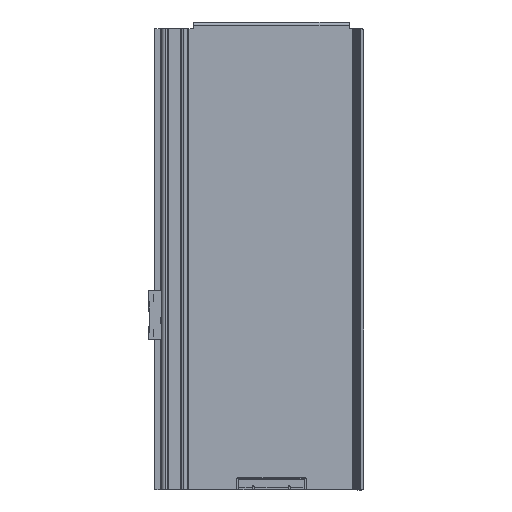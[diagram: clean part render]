
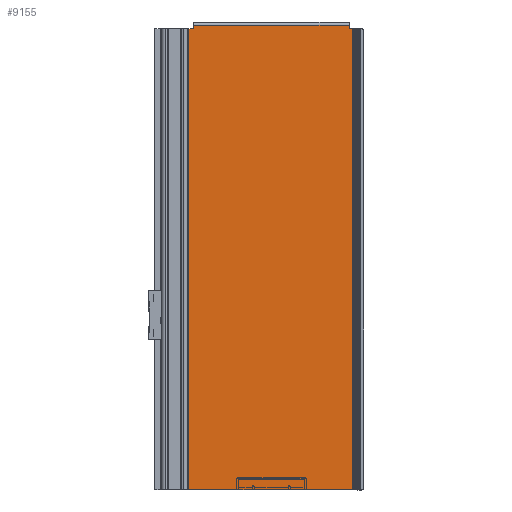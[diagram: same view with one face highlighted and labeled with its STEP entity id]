
A CAD part, left-side view. The second image highlights one B-rep face of the part: STEP entity #9155.
In plain terms, the highlighted planar face has unit normal (-1, 0, 0) as drawn and (1, 0, 0) by its records, which use the part's own axes.
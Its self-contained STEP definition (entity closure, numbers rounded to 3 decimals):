
#271=PLANE('',#9974);
#758=LINE('',#14781,#1502);
#763=LINE('',#14796,#1507);
#768=LINE('',#14805,#1512);
#769=LINE('',#14808,#1513);
#806=LINE('',#14933,#1550);
#824=LINE('',#14981,#1568);
#825=LINE('',#14984,#1569);
#826=LINE('',#14985,#1570);
#1502=VECTOR('',#11856,10.);
#1507=VECTOR('',#11871,10.);
#1512=VECTOR('',#11878,10.);
#1513=VECTOR('',#11881,10.);
#1550=VECTOR('',#11988,10.);
#1568=VECTOR('',#12042,10.);
#1569=VECTOR('',#12045,10.);
#1570=VECTOR('',#12046,10.);
#2243=FACE_OUTER_BOUND('',#2805,.T.);
#2805=EDGE_LOOP('',(#7184,#7185,#7186,#7187,#7188,#7189,#7190,#7191));
#3986=VERTEX_POINT('',#14777);
#3987=VERTEX_POINT('',#14779);
#3992=VERTEX_POINT('',#14795);
#3995=VERTEX_POINT('',#14803);
#3996=VERTEX_POINT('',#14807);
#4049=VERTEX_POINT('',#14931);
#4061=VERTEX_POINT('',#14979);
#4062=VERTEX_POINT('',#14983);
#5063=EDGE_CURVE('',#3986,#3987,#758,.T.);
#5070=EDGE_CURVE('',#3992,#3986,#763,.T.);
#5075=EDGE_CURVE('',#3987,#3995,#768,.T.);
#5076=EDGE_CURVE('',#3996,#3992,#769,.T.);
#5139=EDGE_CURVE('',#3995,#4049,#806,.T.);
#5163=EDGE_CURVE('',#4061,#4049,#824,.T.);
#5164=EDGE_CURVE('',#4062,#4061,#825,.T.);
#5165=EDGE_CURVE('',#4062,#3996,#826,.T.);
#7184=ORIENTED_EDGE('',*,*,#5164,.F.);
#7185=ORIENTED_EDGE('',*,*,#5165,.T.);
#7186=ORIENTED_EDGE('',*,*,#5076,.T.);
#7187=ORIENTED_EDGE('',*,*,#5070,.T.);
#7188=ORIENTED_EDGE('',*,*,#5063,.T.);
#7189=ORIENTED_EDGE('',*,*,#5075,.T.);
#7190=ORIENTED_EDGE('',*,*,#5139,.T.);
#7191=ORIENTED_EDGE('',*,*,#5163,.F.);
#9155=ADVANCED_FACE('',(#2243),#271,.F.);
#9974=AXIS2_PLACEMENT_3D('',#14982,#12043,#12044);
#11856=DIRECTION('',(0.,-1.,0.));
#11871=DIRECTION('',(0.,0.,1.));
#11878=DIRECTION('',(0.,0.,-1.));
#11881=DIRECTION('',(0.,-1.,0.));
#11988=DIRECTION('',(0.,-1.,0.));
#12042=DIRECTION('',(0.,0.,1.));
#12043=DIRECTION('center_axis',(-1.,0.,0.));
#12044=DIRECTION('ref_axis',(0.,-1.,0.));
#12045=DIRECTION('',(0.,-1.,0.));
#12046=DIRECTION('',(0.,0.,1.));
#14777=CARTESIAN_POINT('',(4.9,145.,345.6));
#14779=CARTESIAN_POINT('',(4.9,29.5,345.6));
#14781=CARTESIAN_POINT('',(4.9,145.,345.6));
#14795=CARTESIAN_POINT('',(4.9,145.,343.));
#14796=CARTESIAN_POINT('',(4.9,145.,343.));
#14803=CARTESIAN_POINT('',(4.9,29.5,343.));
#14805=CARTESIAN_POINT('',(4.9,29.5,343.));
#14807=CARTESIAN_POINT('',(4.9,147.342,343.));
#14808=CARTESIAN_POINT('',(4.9,147.342,343.));
#14931=CARTESIAN_POINT('',(4.9,25.9,343.));
#14933=CARTESIAN_POINT('',(4.9,147.342,343.));
#14979=CARTESIAN_POINT('',(4.9,25.9,0.));
#14981=CARTESIAN_POINT('',(4.9,25.9,0.));
#14982=CARTESIAN_POINT('Origin',(4.9,147.342,0.));
#14983=CARTESIAN_POINT('',(4.9,147.342,0.));
#14984=CARTESIAN_POINT('',(4.9,147.342,0.));
#14985=CARTESIAN_POINT('',(4.9,147.342,0.));
